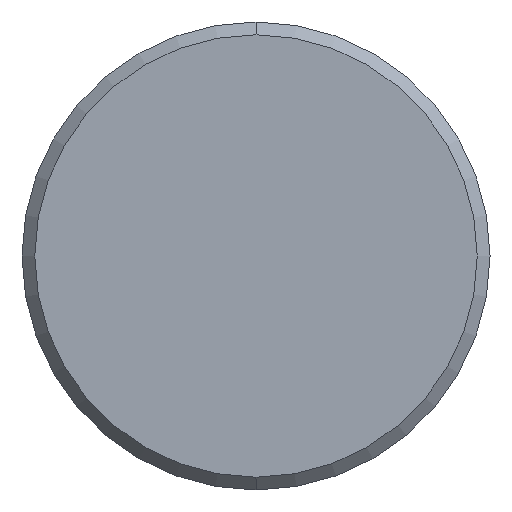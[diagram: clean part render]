
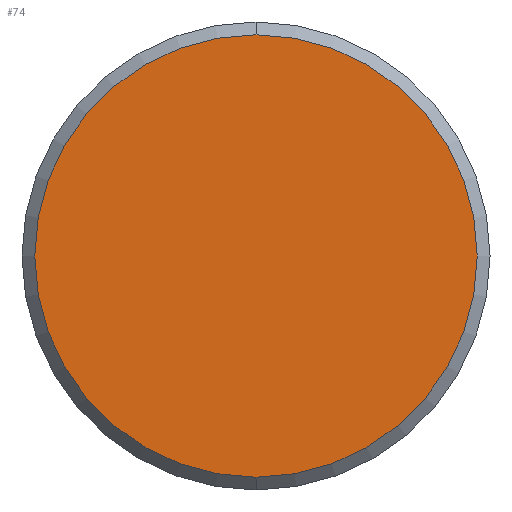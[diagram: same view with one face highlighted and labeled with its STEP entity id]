
A CAD part, front view. The second image highlights one B-rep face of the part: STEP entity #74.
In plain terms, the highlighted planar face has unit normal (0, -1, 0).
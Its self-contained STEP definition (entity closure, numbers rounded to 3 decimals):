
#11 = EDGE_LOOP ( 'NONE', ( #66, #169 ) ) ;
#21 = DIRECTION ( 'NONE',  ( 0., 0., 1. ) ) ;
#34 = CARTESIAN_POINT ( 'NONE',  ( 0., 0., 8.625 ) ) ;
#35 = VERTEX_POINT ( 'NONE', #34 ) ;
#38 = EDGE_CURVE ( 'NONE', #35, #177, #182, .T. ) ;
#42 = CARTESIAN_POINT ( 'NONE',  ( 0., 0., -8.625 ) ) ;
#66 = ORIENTED_EDGE ( 'NONE', *, *, #38, .T. ) ;
#69 = DIRECTION ( 'NONE',  ( 0., -1., 0. ) ) ;
#71 = CIRCLE ( 'NONE', #150, 8.625 ) ;
#74 = ADVANCED_FACE ( 'NONE', ( #141 ), #216, .F. ) ;
#85 = CARTESIAN_POINT ( 'NONE',  ( 0., 0., 0. ) ) ;
#107 = EDGE_CURVE ( 'NONE', #177, #35, #71, .T. ) ;
#122 = DIRECTION ( 'NONE',  ( 0., 0., 1. ) ) ;
#140 = DIRECTION ( 'NONE',  ( 0., 0., 1. ) ) ;
#141 = FACE_OUTER_BOUND ( 'NONE', #11, .T. ) ;
#149 = CARTESIAN_POINT ( 'NONE',  ( 0., 0., 0. ) ) ;
#150 = AXIS2_PLACEMENT_3D ( 'NONE', #149, #185, #21 ) ;
#157 = AXIS2_PLACEMENT_3D ( 'NONE', #85, #69, #140 ) ;
#169 = ORIENTED_EDGE ( 'NONE', *, *, #107, .T. ) ;
#172 = DIRECTION ( 'NONE',  ( 0., 1., 0. ) ) ;
#176 = AXIS2_PLACEMENT_3D ( 'NONE', #229, #172, #122 ) ;
#177 = VERTEX_POINT ( 'NONE', #42 ) ;
#182 = CIRCLE ( 'NONE', #157, 8.625 ) ;
#185 = DIRECTION ( 'NONE',  ( 0., -1., 0. ) ) ;
#216 = PLANE ( 'NONE',  #176 ) ;
#229 = CARTESIAN_POINT ( 'NONE',  ( 0., 0., 0. ) ) ;
